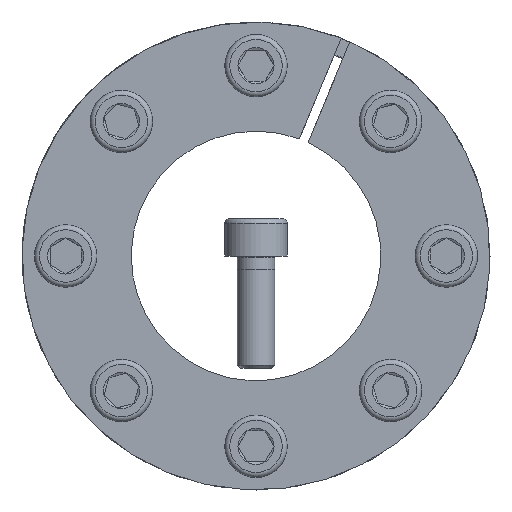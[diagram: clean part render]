
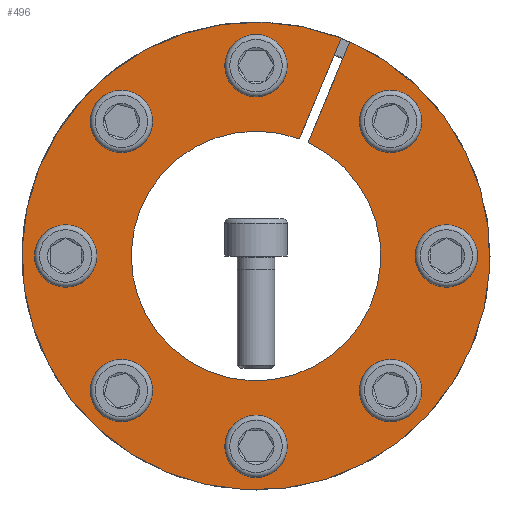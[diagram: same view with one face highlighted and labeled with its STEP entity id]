
A CAD part, front view. The second image highlights one B-rep face of the part: STEP entity #496.
In plain terms, the highlighted planar face has unit normal (0, -1, 0).
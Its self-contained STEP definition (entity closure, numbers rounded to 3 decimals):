
#496 = ADVANCED_FACE( '', ( #896, #897, #898, #899, #900, #901, #902, #903, #904 ), #905, .F. );
#896 = FACE_BOUND( '', #1468, .T. );
#897 = FACE_BOUND( '', #1469, .T. );
#898 = FACE_BOUND( '', #1470, .T. );
#899 = FACE_BOUND( '', #1471, .T. );
#900 = FACE_BOUND( '', #1472, .T. );
#901 = FACE_BOUND( '', #1473, .T. );
#902 = FACE_BOUND( '', #1474, .T. );
#903 = FACE_BOUND( '', #1475, .T. );
#904 = FACE_OUTER_BOUND( '', #1476, .T. );
#905 = PLANE( '', #1477 );
#1468 = EDGE_LOOP( '', ( #2149 ) );
#1469 = EDGE_LOOP( '', ( #2150 ) );
#1470 = EDGE_LOOP( '', ( #2151 ) );
#1471 = EDGE_LOOP( '', ( #2152 ) );
#1472 = EDGE_LOOP( '', ( #2153 ) );
#1473 = EDGE_LOOP( '', ( #2154 ) );
#1474 = EDGE_LOOP( '', ( #2155 ) );
#1475 = EDGE_LOOP( '', ( #2156 ) );
#1476 = EDGE_LOOP( '', ( #2157, #2158, #2159, #2160 ) );
#1477 = AXIS2_PLACEMENT_3D( '', #2161, #2162, #2163 );
#2149 = ORIENTED_EDGE( '', *, *, #3435, .T. );
#2150 = ORIENTED_EDGE( '', *, *, #3436, .T. );
#2151 = ORIENTED_EDGE( '', *, *, #3437, .T. );
#2152 = ORIENTED_EDGE( '', *, *, #3438, .T. );
#2153 = ORIENTED_EDGE( '', *, *, #3439, .T. );
#2154 = ORIENTED_EDGE( '', *, *, #3440, .T. );
#2155 = ORIENTED_EDGE( '', *, *, #3441, .T. );
#2156 = ORIENTED_EDGE( '', *, *, #3424, .T. );
#2157 = ORIENTED_EDGE( '', *, *, #3419, .T. );
#2158 = ORIENTED_EDGE( '', *, *, #3425, .T. );
#2159 = ORIENTED_EDGE( '', *, *, #3396, .T. );
#2160 = ORIENTED_EDGE( '', *, *, #3387, .F. );
#2161 = CARTESIAN_POINT( '', ( 0., 0., 37.5 ) );
#2162 = DIRECTION( '', ( 0., 1., 0. ) );
#2163 = DIRECTION( '', ( 0., 0., 1. ) );
#3387 = EDGE_CURVE( '', #3758, #3754, #3760, .T. );
#3396 = EDGE_CURVE( '', #3777, #3754, #3778, .T. );
#3419 = EDGE_CURVE( '', #3758, #3813, #3815, .T. );
#3424 = EDGE_CURVE( '', #3821, #3821, #3822, .T. );
#3425 = EDGE_CURVE( '', #3813, #3777, #3823, .T. );
#3435 = EDGE_CURVE( '', #3841, #3841, #3842, .T. );
#3436 = EDGE_CURVE( '', #3843, #3843, #3844, .T. );
#3437 = EDGE_CURVE( '', #3845, #3845, #3846, .T. );
#3438 = EDGE_CURVE( '', #3847, #3847, #3848, .T. );
#3439 = EDGE_CURVE( '', #3849, #3849, #3850, .T. );
#3440 = EDGE_CURVE( '', #3851, #3851, #3852, .T. );
#3441 = EDGE_CURVE( '', #3853, #3853, #3854, .T. );
#3754 = VERTEX_POINT( '', #4267 );
#3758 = VERTEX_POINT( '', #4272 );
#3760 = CIRCLE( '', #4275, 20. );
#3777 = VERTEX_POINT( '', #4300 );
#3778 = LINE( '', #4301, #4302 );
#3813 = VERTEX_POINT( '', #4366 );
#3815 = LINE( '', #4369, #4370 );
#3821 = VERTEX_POINT( '', #4376 );
#3822 = CIRCLE( '', #4377, 3. );
#3823 = CIRCLE( '', #4378, 37.5 );
#3841 = VERTEX_POINT( '', #4396 );
#3842 = CIRCLE( '', #4397, 3. );
#3843 = VERTEX_POINT( '', #4398 );
#3844 = CIRCLE( '', #4399, 3. );
#3845 = VERTEX_POINT( '', #4400 );
#3846 = CIRCLE( '', #4401, 3. );
#3847 = VERTEX_POINT( '', #4402 );
#3848 = CIRCLE( '', #4403, 3. );
#3849 = VERTEX_POINT( '', #4404 );
#3850 = CIRCLE( '', #4405, 3. );
#3851 = VERTEX_POINT( '', #4406 );
#3852 = CIRCLE( '', #4407, 3. );
#3853 = VERTEX_POINT( '', #4408 );
#3854 = CIRCLE( '', #4409, 3. );
#4267 = CARTESIAN_POINT( '', ( 8.348, 0., 18.175 ) );
#4272 = CARTESIAN_POINT( '', ( 6.949, 0., 18.754 ) );
#4275 = AXIS2_PLACEMENT_3D( '', #5232, #5233, #5234 );
#4300 = CARTESIAN_POINT( '', ( 15.047, 0., 34.349 ) );
#4301 = CARTESIAN_POINT( '', ( 15.05, 0., 34.356 ) );
#4302 = VECTOR( '', #5249, 1000. );
#4366 = CARTESIAN_POINT( '', ( 13.648, 0., 34.928 ) );
#4369 = CARTESIAN_POINT( '', ( 6.949, 0., 18.754 ) );
#4370 = VECTOR( '', #5274, 1000. );
#4376 = CARTESIAN_POINT( '', ( -19.445, 0., 23.688 ) );
#4377 = AXIS2_PLACEMENT_3D( '', #5287, #5288, #5289 );
#4378 = AXIS2_PLACEMENT_3D( '', #5290, #5291, #5292 );
#4396 = CARTESIAN_POINT( '', ( 3., 0., 30.5 ) );
#4397 = AXIS2_PLACEMENT_3D( '', #5320, #5321, #5322 );
#4398 = CARTESIAN_POINT( '', ( 23.688, 0., 19.445 ) );
#4399 = AXIS2_PLACEMENT_3D( '', #5323, #5324, #5325 );
#4400 = CARTESIAN_POINT( '', ( 30.5, 0., -3. ) );
#4401 = AXIS2_PLACEMENT_3D( '', #5326, #5327, #5328 );
#4402 = CARTESIAN_POINT( '', ( 19.445, 0., -23.688 ) );
#4403 = AXIS2_PLACEMENT_3D( '', #5329, #5330, #5331 );
#4404 = CARTESIAN_POINT( '', ( -3., 0., -30.5 ) );
#4405 = AXIS2_PLACEMENT_3D( '', #5332, #5333, #5334 );
#4406 = CARTESIAN_POINT( '', ( -23.688, 0., -19.445 ) );
#4407 = AXIS2_PLACEMENT_3D( '', #5335, #5336, #5337 );
#4408 = CARTESIAN_POINT( '', ( -30.5, 0., 3. ) );
#4409 = AXIS2_PLACEMENT_3D( '', #5338, #5339, #5340 );
#5232 = CARTESIAN_POINT( '', ( 0., 0., 0. ) );
#5233 = DIRECTION( '', ( 0., -1., 0. ) );
#5234 = DIRECTION( '', ( 0., 0., -1. ) );
#5249 = DIRECTION( '', ( -0.383, 0., -0.924 ) );
#5274 = DIRECTION( '', ( 0.383, 0., 0.924 ) );
#5287 = CARTESIAN_POINT( '', ( -21.567, 0., 21.567 ) );
#5288 = DIRECTION( '', ( 0., 1., 0. ) );
#5289 = DIRECTION( '', ( 0.707, 0., 0.707 ) );
#5290 = CARTESIAN_POINT( '', ( 0., 0., 0. ) );
#5291 = DIRECTION( '', ( 0., -1., 0. ) );
#5292 = DIRECTION( '', ( 0., 0., -1. ) );
#5320 = CARTESIAN_POINT( '', ( 0., 0., 30.5 ) );
#5321 = DIRECTION( '', ( 0., 1., 0. ) );
#5322 = DIRECTION( '', ( 1., 0., 0. ) );
#5323 = CARTESIAN_POINT( '', ( 21.567, 0., 21.567 ) );
#5324 = DIRECTION( '', ( 0., 1., 0. ) );
#5325 = DIRECTION( '', ( 0.707, 0., -0.707 ) );
#5326 = CARTESIAN_POINT( '', ( 30.5, 0., 0. ) );
#5327 = DIRECTION( '', ( 0., 1., 0. ) );
#5328 = DIRECTION( '', ( 0., 0., -1. ) );
#5329 = CARTESIAN_POINT( '', ( 21.567, 0., -21.567 ) );
#5330 = DIRECTION( '', ( 0., 1., 0. ) );
#5331 = DIRECTION( '', ( -0.707, 0., -0.707 ) );
#5332 = CARTESIAN_POINT( '', ( 0., 0., -30.5 ) );
#5333 = DIRECTION( '', ( 0., 1., 0. ) );
#5334 = DIRECTION( '', ( -1., 0., 0. ) );
#5335 = CARTESIAN_POINT( '', ( -21.567, 0., -21.567 ) );
#5336 = DIRECTION( '', ( 0., 1., 0. ) );
#5337 = DIRECTION( '', ( -0.707, 0., 0.707 ) );
#5338 = CARTESIAN_POINT( '', ( -30.5, 0., 0. ) );
#5339 = DIRECTION( '', ( 0., 1., 0. ) );
#5340 = DIRECTION( '', ( 0., 0., 1. ) );
